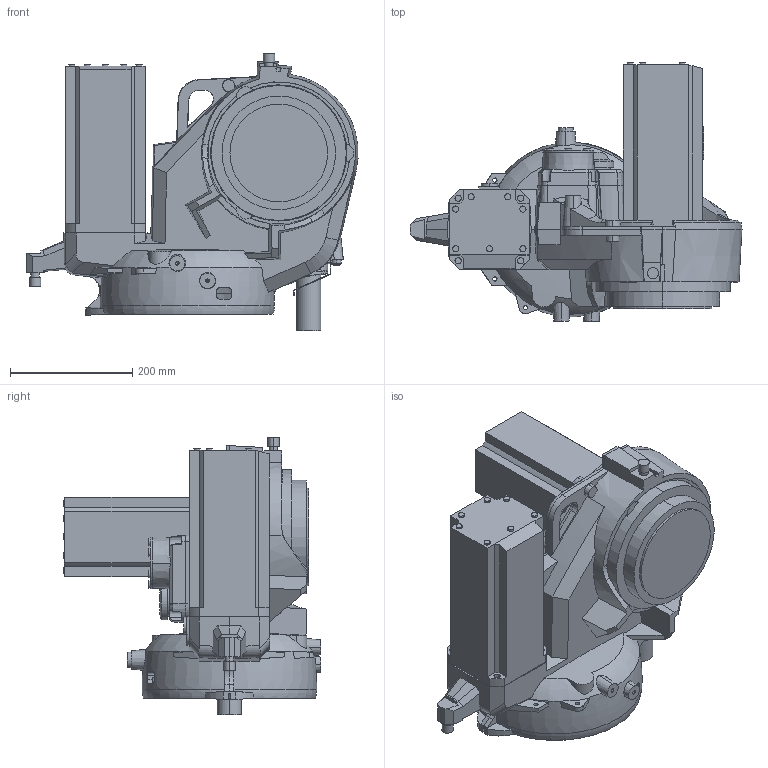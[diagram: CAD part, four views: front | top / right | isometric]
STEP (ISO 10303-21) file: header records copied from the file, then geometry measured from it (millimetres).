
FILE_DESCRIPTION (( 'STEP AP214' ), '1' );
FILE_NAME ('IRB2600-TYPEC_12kg-165_LINK1_CAD_rev01.STEP', '2018-06-26T01:08:34', ( 'ABB' ), ( 'ABB' ), 'SwSTEP 2.0', 'SolidWorks 2016', '' );
FILE_SCHEMA (( 'AUTOMOTIVE_DESIGN' ));
Length unit declared in the file: millimetre
Products named in the file (1): IRB2600-TYPEC_12kg-165_LINK1_CAD_rev01
Bounding box: 543.73 x 422.5 x 454 mm (x, y, z)
Volume: 22581391.3 mm3; surface area: 1078784.1 mm2
Topology: 1 solids, 1 shells, 1119 faces, 2908 edges, 1826 vertices
Faces by surface type: plane 484, cylinder 272, bspline 217, cone 133, torus 13
Entity records: 48828 total; most frequent: CARTESIAN_POINT 21040, ORIENTED_EDGE 5750, DIRECTION 4701, EDGE_CURVE 2875, VERTEX_POINT 1826, AXIS2_PLACEMENT_3D 1672, VECTOR 1357, LINE 1357
